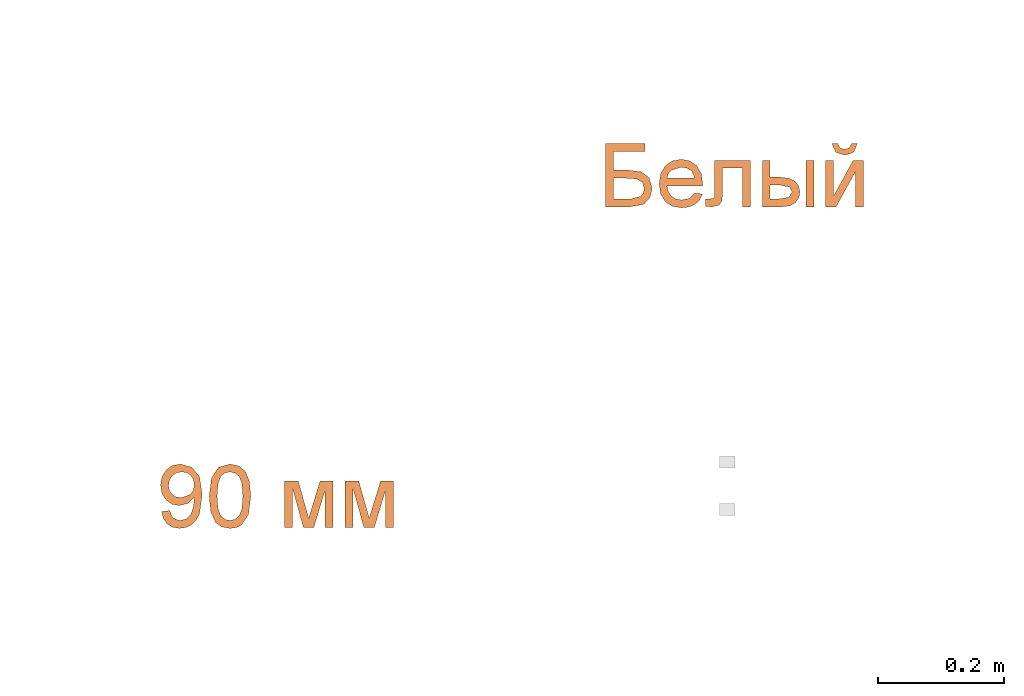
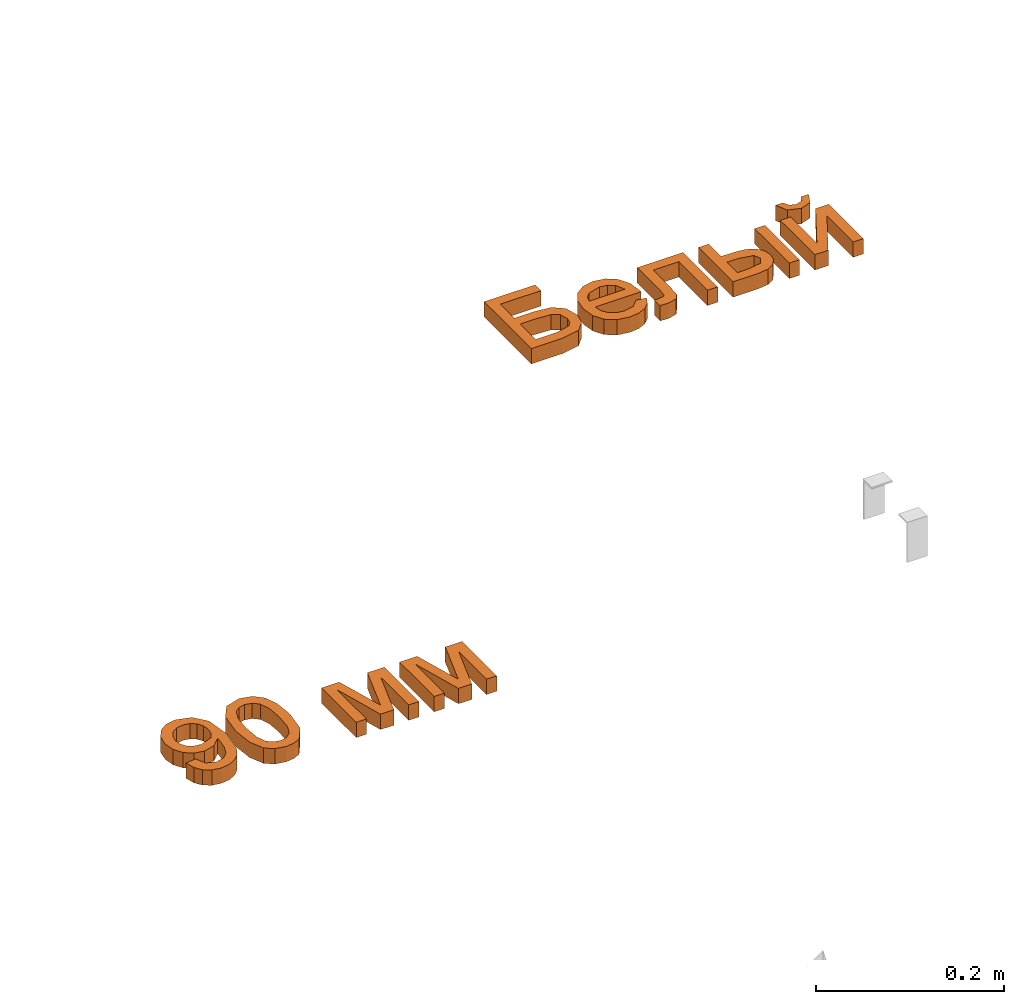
# One storey, part 47 of 87: 2 proxies.
"""IFC2X3 building model written with IfcOpenShell, lengths in millimetres."""

from ifc_helpers import new_model, entity, si_unit, converted_unit, derived_unit, direction, frame, frame_2d, origin, place, context, subcontext, project, spatial, polyline, rectangle, outline, extrude, element, save


model = new_model("IFC2X3")

# Units and contexts
model_context = context("Model", 3, precision=0.01, world=origin(), true_north=direction((6.12303176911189e-17, 1.0)))
body_context = subcontext(model_context, "Body", "Model", "MODEL_VIEW")
ifc_project = project(units=[si_unit("LENGTHUNIT", "METRE", prefix="MILLI"), si_unit("AREAUNIT", "SQUARE_METRE"), si_unit("VOLUMEUNIT", "CUBIC_METRE"), converted_unit("PLANEANGLEUNIT", "DEGREE", entity("IfcRatioMeasure", 0.0174532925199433), si_unit("PLANEANGLEUNIT", "RADIAN"), dimensions=[0, 0, 0, 0, 0, 0, 0]), si_unit("MASSUNIT", "GRAM", prefix="KILO"), derived_unit("MASSDENSITYUNIT", [(si_unit("MASSUNIT", "GRAM", prefix="KILO"), 1), (si_unit("LENGTHUNIT", "METRE"), -3)]), si_unit("TIMEUNIT", "SECOND"), si_unit("FREQUENCYUNIT", "HERTZ"), si_unit("THERMODYNAMICTEMPERATUREUNIT", "DEGREE_CELSIUS"), derived_unit("THERMALTRANSMITTANCEUNIT", [(si_unit("MASSUNIT", "GRAM", prefix="KILO"), 1), (si_unit("THERMODYNAMICTEMPERATUREUNIT", "KELVIN"), -1), (si_unit("TIMEUNIT", "SECOND"), -3)]), derived_unit("VOLUMETRICFLOWRATEUNIT", [(si_unit("LENGTHUNIT", "METRE"), 3), (si_unit("TIMEUNIT", "SECOND"), -1)]), si_unit("ELECTRICCURRENTUNIT", "AMPERE"), si_unit("ELECTRICVOLTAGEUNIT", "VOLT"), si_unit("POWERUNIT", "WATT"), si_unit("FORCEUNIT", "NEWTON", prefix="KILO"), si_unit("ILLUMINANCEUNIT", "LUX"), si_unit("LUMINOUSFLUXUNIT", "LUMEN"), si_unit("LUMINOUSINTENSITYUNIT", "CANDELA"), derived_unit("USERDEFINED", [(si_unit("MASSUNIT", "GRAM", prefix="KILO"), -1), (si_unit("LENGTHUNIT", "METRE"), -2), (si_unit("TIMEUNIT", "SECOND"), 3), (si_unit("LUMINOUSFLUXUNIT", "LUMEN"), 1)]), derived_unit("LINEARVELOCITYUNIT", [(si_unit("LENGTHUNIT", "METRE"), 1), (si_unit("TIMEUNIT", "SECOND"), -1)]), si_unit("PRESSUREUNIT", "PASCAL"), derived_unit("USERDEFINED", [(si_unit("LENGTHUNIT", "METRE"), -2), (si_unit("MASSUNIT", "GRAM", prefix="KILO"), 1), (si_unit("TIMEUNIT", "SECOND"), -2)])], contexts=[model_context])

# Site, building, storey
site_placement = place(None, origin())
site = spatial("IfcSite", under=ifc_project, at=site_placement, Name="Default", CompositionType="ELEMENT")
building_placement = place(site_placement, origin())
building = spatial("IfcBuilding", under=site, at=building_placement, Name="Наименование здания", CompositionType="ELEMENT")
storey_placement = place(building_placement, origin())
storey = spatial("IfcBuildingStorey", under=building, at=storey_placement, Name="Этаж 01", CompositionType="ELEMENT", Elevation=0.0)

# Proxies
proxy_1_placement = place(storey_placement, origin())
element("IfcBuildingElementProxy", 1, at=proxy_1_placement, inside=storey, Name="Текст модели:100 мм Arial", ObjectType="Текст модели:100 мм Arial", context=body_context, shape_type="SweptSolid", body=[
    extrude(outline(polyline([(-50.9950475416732, -42.7620371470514), (49.4612626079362, -42.7620371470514), (49.4612626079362, -4.42873324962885), (45.2428823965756, 17.8649156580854), (34.3658380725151, 27.7118903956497), (20.0552284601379, 31.0105656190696), (3.57411507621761, 26.3752524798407), (-6.06439319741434, 14.0389429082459), (-8.61504169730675, -6.68507615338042), (-8.61504169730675, -30.2049983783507), (-38.438008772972, -30.2049983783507), (-38.438008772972, 20.0231566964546), (-50.9950475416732, 20.0231566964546), (-50.9950475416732, -42.7620371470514)]), holes=[polyline([(36.904223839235, -30.2049983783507), (3.94199707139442, -30.2049983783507), (3.94199707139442, -12.2523570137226), (5.24184678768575, 6.66904027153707), (10.4902965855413, 15.3387926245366), (20.3250085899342, 18.4535268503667), (27.5784152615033, 17.0923634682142), (32.7594200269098, 13.0088733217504), (36.904223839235, -3.30056179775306), (36.904223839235, -30.2049983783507)])]), frame((12953.8285451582, 82.8338357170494, 0.0), z_axis=(0.0, 0.0, 1.0), x_axis=(0.0, -1.0, 0.0)), (0.0, 0.0, 1.0), 20.0),
    extrude(outline(polyline([(-8.10128238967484, -20.3751729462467), (-15.5352214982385, -30.3140016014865), (-5.784003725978, -33.5775071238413), (4.12185089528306, -33.3132173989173), (13.877616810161, -29.4480778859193), (23.1785684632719, -21.9090340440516), (31.6380426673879, -9.59237957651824), (34.1620486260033, 3.74135328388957), (30.6040508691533, 17.2442201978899), (20.8175139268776, 30.0682768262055), (7.2769827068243, 39.7846728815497), (-6.66179525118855, 43.1117813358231), (-19.9642596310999, 40.422123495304), (-31.5958501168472, 32.0882206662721), (-39.2435519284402, 20.5090048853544), (-41.3106827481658, 7.34319797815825), (-37.4373707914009, -6.34962495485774), (-27.2637442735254, -19.5098888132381), (-24.7804584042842, -21.8106804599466), (14.4643272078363, 18.7422646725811), (19.7071986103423, 10.6437992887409), (21.1614672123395, 2.21005051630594), (19.1472085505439, -5.98136753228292), (13.9844981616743, -13.3528407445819), (3.53684605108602, -20.3751729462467), (-8.10128238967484, -20.3751729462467)]), holes=[polyline([(5.44081225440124, 27.4746984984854), (-25.1227061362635, -4.10760383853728), (-29.8038819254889, 7.41909510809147), (-27.8851342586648, 15.7498710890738), (-22.5382240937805, 23.3910349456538), (-8.40970331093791, 31.236865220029), (-1.08072680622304, 30.9147288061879), (5.44081225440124, 27.4746984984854)])]), frame((13031.9105930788, 63.6951239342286, 0.0), z_axis=(0.0, 0.0, -1.0), x_axis=(-0.695421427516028, -0.718602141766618, 0.0)), (0.0, 0.0, -1.0), 20.0),
    extrude(outline(polyline([(-49.3689973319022, 12.544776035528), (-49.3689973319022, -43.9618984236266), (24.3300290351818, -43.9618984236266), (24.3300290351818, -31.4048596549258), (-36.8119585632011, -31.4048596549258), (-36.8119585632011, -0.0122627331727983), (-1.61791435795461, -0.0122627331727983), (14.6179443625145, 0.833865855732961), (21.4728122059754, 5.48144172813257), (24.4036054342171, 16.4688506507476), (23.765943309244, 26.6714446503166), (11.846566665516, 26.6714446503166), (11.846566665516, 21.0551128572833), (11.0740144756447, 15.3774673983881), (8.62146784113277, 13.1088617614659), (-2.32915288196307, 12.544776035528), (-49.3689973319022, 12.544776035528)])), frame((13096.2705671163, 57.7761785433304, 0.0), z_axis=(0.0, 0.0, -1.0), x_axis=(0.0, -1.0, 0.0)), (0.0, 0.0, -1.0), 20.0),
    extrude(outline(polyline([(-42.3988715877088, -34.5139341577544), (31.3737311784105, -34.5139341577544), (31.3737311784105, -3.73447389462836), (29.653882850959, 9.31613988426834), (24.4943378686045, 18.2526066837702), (16.9129030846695, 23.4121516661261), (7.92738535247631, 25.1319999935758), (-1.94104916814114, 23.081057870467), (-9.42438208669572, 16.928231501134), (-14.1424686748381, 6.98622058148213), (-15.7151642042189, -6.43227519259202), (-15.7151642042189, -21.9568953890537), (-42.3988715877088, -21.9568953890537), (-42.3988715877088, -34.5139341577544)]), holes=[polyline([(18.8166924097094, -21.9568953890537), (-3.1581254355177, -21.9568953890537), (-3.1581254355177, -7.41329384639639), (0.226388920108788, 8.88387853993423), (7.95191081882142, 12.5749612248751), (16.180204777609, 7.5962915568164), (18.8166924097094, -9.05650009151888), (18.8166924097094, -21.9568953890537)])]), frame((13193.5819578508, 64.7463042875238, 0.0), z_axis=(0.0, 0.0, 1.0), x_axis=(0.0, -1.0, 0.0)), (0.0, 0.0, 1.0), 20.0),
    extrude(outline(polyline([(-11.1429830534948, -6.65049913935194), (-15.3141401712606, -15.0941956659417), (-0.0922190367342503, -15.8161107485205), (10.2631635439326, -5.84547547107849), (12.416217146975, 9.42172447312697), (2.76087400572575, 21.4951559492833), (-1.41028311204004, 13.0514594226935), (3.36929976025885, 6.75127419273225), (2.31913688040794, -0.662833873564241), (-3.16906596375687, -6.65049913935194), (-11.1429830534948, -6.65049913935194)])), frame((13289.4368188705, 126.783943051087, 0.0), z_axis=(0.0, 0.0, -1.0), x_axis=(-0.442902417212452, -0.8965698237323, 0.0)), (0.0, 0.0, -1.0), 20.0),
    extrude(outline(polyline([(-36.9206370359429, -29.8425874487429), (36.8519657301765, -29.8425874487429), (36.8519657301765, -13.4105249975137), (-19.0660975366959, 17.2463079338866), (36.8519657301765, 17.2463079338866), (36.8519657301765, 29.8033467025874), (-36.9206370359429, 29.8033467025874), (-36.9206370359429, 13.5674879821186), (19.3407827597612, -17.2855486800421), (-36.9206370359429, -17.2855486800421), (-36.9206370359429, -29.8425874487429)])), frame((13289.3669212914, 70.2245388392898, 0.0), z_axis=(0.0, 0.0, 1.0), x_axis=(0.0, -1.0, 0.0)), (0.0, 0.0, 1.0), 20.0),
    extrude(rectangle(XDim=73.7726027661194, YDim=12.5570387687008, at=frame_2d((0.0, 1.08268949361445e-12), x_axis=(1.0, 0.0))), frame((13234.4102563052, 70.2588744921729, 0.0), z_axis=(0.0, 0.0, 1.0), x_axis=(0.0, -1.0, 0.0)), (0.0, 0.0, 1.0), 20.0),
])
proxy_2_placement = place(storey_placement, origin())
element("IfcBuildingElementProxy", 2, at=proxy_2_placement, inside=storey, Name="Текст модели:100 мм Arial", ObjectType="Текст модели:100 мм Arial", context=body_context, shape_type="SweptSolid", body=[
    extrude(outline(polyline([(5.58296908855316, -31.7859506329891), (17.238716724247, -31.7859506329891), (26.9216142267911, -28.173991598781), (34.2072820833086, -21.2554963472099), (38.6713407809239, -11.3358876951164), (39.9245387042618, -0.90373104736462), (37.9450282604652, 8.92661895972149), (32.7793953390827, 17.8190246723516), (24.474225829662, 25.4373484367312), (-3.90517077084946, 37.3659164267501), (-32.1440557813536, 40.5619140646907), (-49.7769073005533, 32.5319597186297), (-59.4683269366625, 16.6032994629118), (-60.4499889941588, 4.02951589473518), (-56.401629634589, -7.53444362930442), (-47.8362588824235, -16.8026666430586), (-35.2668867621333, -22.489240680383), (-21.9841856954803, -23.8222776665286), (-10.3310965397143, -20.2832716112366), (-1.40106329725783, -12.8047998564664), (3.71247002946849, -2.31943974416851), (3.7390209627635, 11.9281903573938), (-2.85997612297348, 24.0883984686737), (-0.471643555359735, 23.5260231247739), (13.1334133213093, 18.0099957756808), (22.6158894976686, 11.2224941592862), (27.0079821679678, 2.91452909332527), (26.6924060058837, -7.5239580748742), (20.3410079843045, -16.8945474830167), (7.3098892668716, -19.2495752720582), (5.58296908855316, -31.7859506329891)]), holes=[polyline([(-21.7672208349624, 29.1433710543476), (-13.9803799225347, 25.5922442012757), (-8.91107638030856, 19.8291378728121), (-7.47464573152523, 4.45415101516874), (-10.9717321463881, -3.43916536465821), (-16.5473789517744, -8.733122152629), (-23.5758136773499, -11.176140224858), (-31.431263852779, -10.5166404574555), (-39.4119601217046, -6.85973803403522), (-44.9206699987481, -0.817312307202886), (-47.5297596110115, 6.83624740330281), (-46.8115950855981, 15.326551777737), (-43.3781823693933, 22.7799280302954), (-37.7148363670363, 27.7965691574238), (-30.3387761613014, 30.0324064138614), (-21.7672208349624, 29.1433710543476)])]), frame((12237.6043209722, -435.249980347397, 0.0), z_axis=(0.0, 0.0, 1.0), x_axis=(0.258284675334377, -0.966068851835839, 0.0)), (0.0, 0.0, 1.0), 20.0),
    extrude(outline(polyline([(-7.02884310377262, -33.3490673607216), (17.5323805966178, -33.3490673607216), (35.1984171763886, -27.6137612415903), (43.343984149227, -18.4876517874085), (47.0516941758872, -5.7515066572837), (46.716202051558, 4.48638208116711), (43.4465778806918, 13.0955287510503), (27.9444305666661, 25.6659118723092), (-0.314338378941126, 32.2325535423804), (-24.0296505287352, 32.367828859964), (-39.4143020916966, 28.026088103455), (-49.7293680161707, 18.9002174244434), (-54.4436715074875, 4.63998875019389), (-50.8676582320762, -14.1301059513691), (-35.4058547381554, -26.7333390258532), (-7.02884310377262, -33.3490673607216)]), holes=[polyline([(-5.77428774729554, -20.8548320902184), (-25.0157644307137, -17.3562860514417), (-36.7257089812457, -11.5717922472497), (-41.0962588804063, -4.77599682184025), (-41.9669219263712, 3.21464792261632), (-39.2244253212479, 11.2791292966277), (-32.865406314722, 17.2229259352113), (-20.9698370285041, 20.2947501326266), (-1.61768958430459, 19.7433141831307), (17.8514140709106, 16.2707701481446), (28.7803640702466, 10.7141596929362), (33.5546988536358, 3.61815959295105), (34.5599568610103, -4.47255337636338), (31.9421230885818, -12.1923199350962), (25.8471825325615, -18.1754808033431), (14.0250679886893, -21.4027476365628), (-5.77428774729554, -20.8548320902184)])]), frame((12317.5726696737, -428.144237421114, 0.0), z_axis=(0.0, 0.0, 1.0), x_axis=(0.1018515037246, -0.994799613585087, 0.0)), (0.0, 0.0, 1.0), 20.0),
    extrude(outline(polyline([(-40.5839870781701, -38.4502715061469), (33.1886156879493, -38.4502715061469), (33.1886156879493, -25.8932327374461), (-29.0570178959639, -25.8932327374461), (33.1886156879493, -8.62730443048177), (33.1886156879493, 7.85380895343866), (-26.2120637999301, 25.904552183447), (33.1886156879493, 25.904552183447), (33.1886156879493, 38.4615909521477), (-40.5839870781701, 38.4615909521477), (-40.5839870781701, 17.762097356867), (18.4733358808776, -0.19054400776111), (-40.5839870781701, -16.8433356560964), (-40.5839870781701, -38.4502715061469)])), frame((12441.4232719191, -440.7787986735, 0.0), z_axis=(0.0, 0.0, 1.0), x_axis=(0.0, -1.0, 0.0)), (0.0, 0.0, 1.0), 20.0),
    extrude(outline(polyline([(-40.5839870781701, -38.4502715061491), (33.1886156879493, -38.4502715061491), (33.1886156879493, -25.8932327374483), (-29.0570178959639, -25.8932327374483), (33.1886156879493, -8.62730443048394), (33.1886156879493, 7.8538089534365), (-26.2120637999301, 25.9045521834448), (33.1886156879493, 25.9045521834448), (33.1886156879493, 38.4615909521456), (-40.5839870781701, 38.4615909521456), (-40.5839870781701, 17.7620973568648), (18.4733358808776, -0.190544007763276), (-40.5839870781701, -16.8433356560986), (-40.5839870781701, -38.4502715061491)])), frame((12537.1706925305, -440.7787986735, 0.0), z_axis=(0.0, 0.0, 1.0), x_axis=(0.0, -1.0, 0.0)), (0.0, 0.0, 1.0), 20.0),
])

save(model, "model.ifc")
